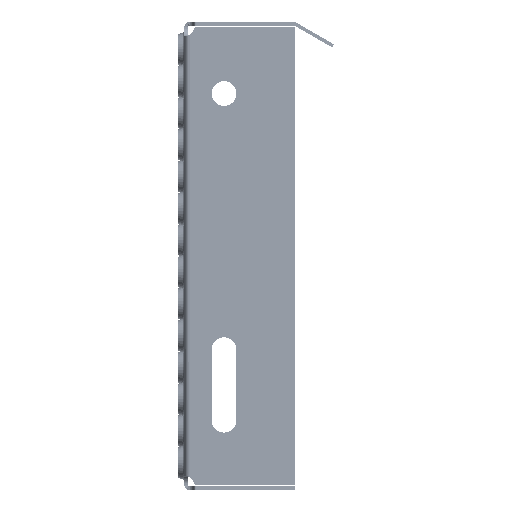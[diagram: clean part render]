
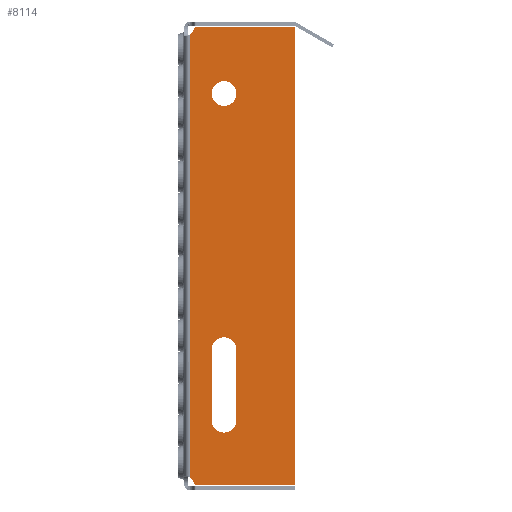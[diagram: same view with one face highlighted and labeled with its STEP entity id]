
A CAD part, left-side view. The second image highlights one B-rep face of the part: STEP entity #8114.
In plain terms, the highlighted planar face has unit normal (-1, 0, 0).
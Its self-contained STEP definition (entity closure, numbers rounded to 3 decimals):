
#242 = FACE_BOUND ( 'NONE', #25494, .T. ) ;
#3362 = DIRECTION ( 'NONE',  ( 0., 0., -1. ) ) ;
#4084 = AXIS2_PLACEMENT_3D ( 'NONE', #10902, #62191, #18280 ) ;
#5043 = DIRECTION ( 'NONE',  ( -1., 0., 0. ) ) ;
#5203 = ORIENTED_EDGE ( 'NONE', *, *, #15963, .T. ) ;
#6852 = VECTOR ( 'NONE', #49756, 1000. ) ;
#7778 = DIRECTION ( 'NONE',  ( 0., 0., 1. ) ) ;
#8114 = ADVANCED_FACE ( 'NONE', ( #39300, #242, #22042 ), #13378, .F. ) ;
#8886 = VERTEX_POINT ( 'NONE', #82184 ) ;
#10072 = CIRCLE ( 'NONE', #24784, 5. ) ;
#10767 = VERTEX_POINT ( 'NONE', #66205 ) ;
#10902 = CARTESIAN_POINT ( 'NONE',  ( -597.5, -22.5, -49. ) ) ;
#13378 = PLANE ( 'NONE',  #88767 ) ;
#14475 = AXIS2_PLACEMENT_3D ( 'NONE', #70656, #26713, #78010 ) ;
#14733 = ORIENTED_EDGE ( 'NONE', *, *, #17730, .F. ) ;
#15963 = EDGE_CURVE ( 'NONE', #21052, #64466, #48893, .T. ) ;
#17434 = LINE ( 'NONE', #59080, #19746 ) ;
#17730 = EDGE_CURVE ( 'NONE', #89676, #89676, #66893, .T. ) ;
#18280 = DIRECTION ( 'NONE',  ( 0., 0., -1. ) ) ;
#18454 = CARTESIAN_POINT ( 'NONE',  ( -597.5, -29.5, -49. ) ) ;
#19746 = VECTOR ( 'NONE', #7778, 1000. ) ;
#20178 = AXIS2_PLACEMENT_3D ( 'NONE', #65867, #21919, #73259 ) ;
#21052 = VERTEX_POINT ( 'NONE', #53470 ) ;
#21690 = VERTEX_POINT ( 'NONE', #23855 ) ;
#21746 = LINE ( 'NONE', #64184, #6852 ) ;
#21919 = DIRECTION ( 'NONE',  ( -1., 0., 0. ) ) ;
#22042 = FACE_BOUND ( 'NONE', #70367, .T. ) ;
#22501 = CARTESIAN_POINT ( 'NONE',  ( -597.5, -6.416, -124.5 ) ) ;
#23157 = CIRCLE ( 'NONE', #4084, 7. ) ;
#23384 = VERTEX_POINT ( 'NONE', #68933 ) ;
#23855 = CARTESIAN_POINT ( 'NONE',  ( -597.5, -5.43, -124.667 ) ) ;
#24521 = CIRCLE ( 'NONE', #61994, 7. ) ;
#24784 = AXIS2_PLACEMENT_3D ( 'NONE', #81413, #37543, #88798 ) ;
#25274 = EDGE_CURVE ( 'NONE', #68949, #68756, #76635, .T. ) ;
#25305 = DIRECTION ( 'NONE',  ( 0., 0., -1. ) ) ;
#25494 = EDGE_LOOP ( 'NONE', ( #14733 ) ) ;
#26713 = DIRECTION ( 'NONE',  ( 1., 0., 0. ) ) ;
#27614 = CARTESIAN_POINT ( 'NONE',  ( -597.5, -15.5, -49. ) ) ;
#29913 = DIRECTION ( 'NONE',  ( 0., 0., -1. ) ) ;
#29915 = VECTOR ( 'NONE', #79731, 1000. ) ;
#30337 = VERTEX_POINT ( 'NONE', #85780 ) ;
#31069 = EDGE_CURVE ( 'NONE', #23384, #30337, #21746, .T. ) ;
#37329 = ORIENTED_EDGE ( 'NONE', *, *, #87124, .T. ) ;
#37543 = DIRECTION ( 'NONE',  ( 1., 0., 0. ) ) ;
#37669 = VECTOR ( 'NONE', #25305, 1000. ) ;
#37915 = DIRECTION ( 'NONE',  ( 0., 1., 0. ) ) ;
#39300 = FACE_OUTER_BOUND ( 'NONE', #61552, .T. ) ;
#47319 = DIRECTION ( 'NONE',  ( -1., 0., 0. ) ) ;
#48505 = AXIS2_PLACEMENT_3D ( 'NONE', #48974, #5043, #56349 ) ;
#48893 = LINE ( 'NONE', #89162, #94818 ) ;
#48974 = CARTESIAN_POINT ( 'NONE',  ( -597.5, -6.416, 132.5 ) ) ;
#49756 = DIRECTION ( 'NONE',  ( 0., -1., 0. ) ) ;
#49934 = CARTESIAN_POINT ( 'NONE',  ( -597.5, 0.5, -131.416 ) ) ;
#51662 = EDGE_CURVE ( 'NONE', #8886, #77946, #10072, .T. ) ;
#51679 = LINE ( 'NONE', #86461, #29915 ) ;
#53470 = CARTESIAN_POINT ( 'NONE',  ( -597.5, -62.5, 133.5 ) ) ;
#54902 = ORIENTED_EDGE ( 'NONE', *, *, #54954, .F. ) ;
#54954 = EDGE_CURVE ( 'NONE', #57320, #77946, #17434, .T. ) ;
#55080 = CARTESIAN_POINT ( 'NONE',  ( -597.5, -3., 129.17 ) ) ;
#55252 = ORIENTED_EDGE ( 'NONE', *, *, #25274, .F. ) ;
#55457 = ORIENTED_EDGE ( 'NONE', *, *, #67136, .T. ) ;
#56349 = DIRECTION ( 'NONE',  ( 0., 0., 1. ) ) ;
#57320 = VERTEX_POINT ( 'NONE', #66181 ) ;
#59080 = CARTESIAN_POINT ( 'NONE',  ( -597.5, -3., -131.416 ) ) ;
#60954 = ORIENTED_EDGE ( 'NONE', *, *, #95148, .T. ) ;
#61552 = EDGE_LOOP ( 'NONE', ( #54902, #85096, #60954, #90402, #37329, #5203, #55457, #69419 ) ) ;
#61994 = AXIS2_PLACEMENT_3D ( 'NONE', #91215, #47319, #3362 ) ;
#62191 = DIRECTION ( 'NONE',  ( -1., 0., 0. ) ) ;
#62403 = LINE ( 'NONE', #18454, #81891 ) ;
#63095 = ORIENTED_EDGE ( 'NONE', *, *, #86259, .F. ) ;
#64184 = CARTESIAN_POINT ( 'NONE',  ( -597.5, -6.416, -125.5 ) ) ;
#64466 = VERTEX_POINT ( 'NONE', #78238 ) ;
#64678 = DIRECTION ( 'NONE',  ( 0., 0., -1. ) ) ;
#65867 = CARTESIAN_POINT ( 'NONE',  ( -597.5, -22.5, 96. ) ) ;
#66181 = CARTESIAN_POINT ( 'NONE',  ( -597.5, -3., -121.17 ) ) ;
#66205 = CARTESIAN_POINT ( 'NONE',  ( -597.5, -29.5, -49. ) ) ;
#66893 = CIRCLE ( 'NONE', #20178, 7. ) ;
#67136 = EDGE_CURVE ( 'NONE', #64466, #8886, #76306, .T. ) ;
#67740 = EDGE_CURVE ( 'NONE', #74821, #10767, #62403, .T. ) ;
#68756 = VERTEX_POINT ( 'NONE', #69655 ) ;
#68933 = CARTESIAN_POINT ( 'NONE',  ( -597.5, -6.416, -125.5 ) ) ;
#68949 = VERTEX_POINT ( 'NONE', #27614 ) ;
#69419 = ORIENTED_EDGE ( 'NONE', *, *, #51662, .T. ) ;
#69655 = CARTESIAN_POINT ( 'NONE',  ( -597.5, -15.5, -89. ) ) ;
#70367 = EDGE_LOOP ( 'NONE', ( #55252, #63095, #94556, #72436 ) ) ;
#70656 = CARTESIAN_POINT ( 'NONE',  ( -597.5, -0.5, -125.5 ) ) ;
#71463 = DIRECTION ( 'NONE',  ( 1., 0., 0. ) ) ;
#72436 = ORIENTED_EDGE ( 'NONE', *, *, #80527, .F. ) ;
#73259 = DIRECTION ( 'NONE',  ( 0., 0., -1. ) ) ;
#73839 = DIRECTION ( 'NONE',  ( -1., 0., 0. ) ) ;
#74821 = VERTEX_POINT ( 'NONE', #93371 ) ;
#76074 = CIRCLE ( 'NONE', #14475, 5. ) ;
#76306 = CIRCLE ( 'NONE', #48505, 1. ) ;
#76617 = CARTESIAN_POINT ( 'NONE',  ( -597.5, -15.5, -49. ) ) ;
#76635 = LINE ( 'NONE', #76617, #37669 ) ;
#77946 = VERTEX_POINT ( 'NONE', #55080 ) ;
#78010 = DIRECTION ( 'NONE',  ( 0., 0., -1. ) ) ;
#78238 = CARTESIAN_POINT ( 'NONE',  ( -597.5, -6.416, 133.5 ) ) ;
#79731 = DIRECTION ( 'NONE',  ( 0., 0., 1. ) ) ;
#80522 = CARTESIAN_POINT ( 'NONE',  ( -597.5, -22.5, 89. ) ) ;
#80527 = EDGE_CURVE ( 'NONE', #68756, #74821, #24521, .T. ) ;
#81413 = CARTESIAN_POINT ( 'NONE',  ( -597.5, -0.5, 133.5 ) ) ;
#81891 = VECTOR ( 'NONE', #92147, 1000. ) ;
#82184 = CARTESIAN_POINT ( 'NONE',  ( -597.5, -5.43, 132.667 ) ) ;
#84145 = AXIS2_PLACEMENT_3D ( 'NONE', #22501, #73839, #29913 ) ;
#85096 = ORIENTED_EDGE ( 'NONE', *, *, #85691, .T. ) ;
#85691 = EDGE_CURVE ( 'NONE', #57320, #21690, #76074, .T. ) ;
#85780 = CARTESIAN_POINT ( 'NONE',  ( -597.5, -62.5, -125.5 ) ) ;
#86259 = EDGE_CURVE ( 'NONE', #10767, #68949, #23157, .T. ) ;
#86461 = CARTESIAN_POINT ( 'NONE',  ( -597.5, -62.5, -125.5 ) ) ;
#87124 = EDGE_CURVE ( 'NONE', #30337, #21052, #51679, .T. ) ;
#88767 = AXIS2_PLACEMENT_3D ( 'NONE', #49934, #71463, #64678 ) ;
#88798 = DIRECTION ( 'NONE',  ( 0., 0., -1. ) ) ;
#88825 = CIRCLE ( 'NONE', #84145, 1. ) ;
#89162 = CARTESIAN_POINT ( 'NONE',  ( -597.5, -62.5, 133.5 ) ) ;
#89676 = VERTEX_POINT ( 'NONE', #80522 ) ;
#90402 = ORIENTED_EDGE ( 'NONE', *, *, #31069, .T. ) ;
#91215 = CARTESIAN_POINT ( 'NONE',  ( -597.5, -22.5, -89. ) ) ;
#92147 = DIRECTION ( 'NONE',  ( 0., 0., 1. ) ) ;
#93371 = CARTESIAN_POINT ( 'NONE',  ( -597.5, -29.5, -89. ) ) ;
#94556 = ORIENTED_EDGE ( 'NONE', *, *, #67740, .F. ) ;
#94818 = VECTOR ( 'NONE', #37915, 1000. ) ;
#95148 = EDGE_CURVE ( 'NONE', #21690, #23384, #88825, .T. ) ;
